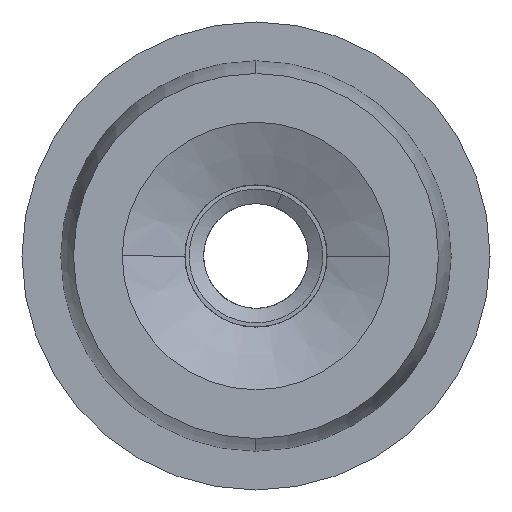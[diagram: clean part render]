
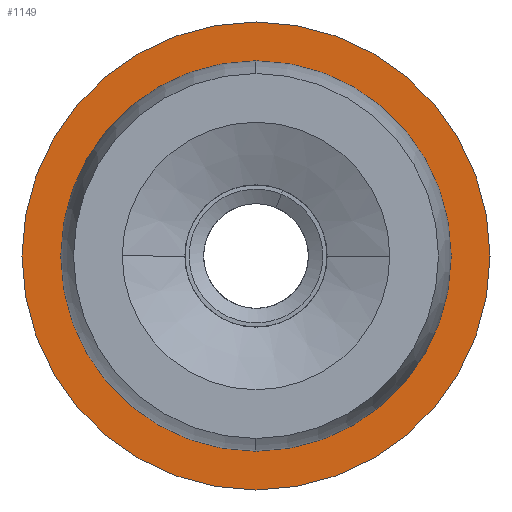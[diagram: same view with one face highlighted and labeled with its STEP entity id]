
A CAD part, left-side view. The second image highlights one B-rep face of the part: STEP entity #1149.
In plain terms, the highlighted planar face has unit normal (-1, 0, 0).
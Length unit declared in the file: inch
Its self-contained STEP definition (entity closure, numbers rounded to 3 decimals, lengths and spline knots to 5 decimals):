
#203 = FACE_BOUND ( 'NONE', #1365, .T. ) ;
#321 = DIRECTION ( 'NONE',  ( -1., 0., 0. ) ) ;
#364 = DIRECTION ( 'NONE',  ( 0., 0., 1. ) ) ;
#584 = CARTESIAN_POINT ( 'NONE',  ( -0.75, 0., 0. ) ) ;
#686 = VERTEX_POINT ( 'NONE', #2312 ) ;
#811 = AXIS2_PLACEMENT_3D ( 'NONE', #1811, #1805, #1777 ) ;
#1149 = ADVANCED_FACE ( 'NONE', ( #203, #2361 ), #1905, .T. ) ;
#1365 = EDGE_LOOP ( 'NONE', ( #2383, #2430 ) ) ;
#1770 = ORIENTED_EDGE ( 'NONE', *, *, #3002, .T. ) ;
#1777 = DIRECTION ( 'NONE',  ( 0., 0., 1. ) ) ;
#1805 = DIRECTION ( 'NONE',  ( -1., 0., 0. ) ) ;
#1811 = CARTESIAN_POINT ( 'NONE',  ( -0.75, 0., -0.365 ) ) ;
#1847 = DIRECTION ( 'NONE',  ( 0., 0., 1. ) ) ;
#1905 = PLANE ( 'NONE',  #811 ) ;
#1917 = CIRCLE ( 'NONE', #4345, 0.4375 ) ;
#1971 = CIRCLE ( 'NONE', #4378, 0.365 ) ;
#2073 = DIRECTION ( 'NONE',  ( 0., 0., 1. ) ) ;
#2107 = CIRCLE ( 'NONE', #4156, 0.365 ) ;
#2117 = ORIENTED_EDGE ( 'NONE', *, *, #2336, .T. ) ;
#2120 = CIRCLE ( 'NONE', #4532, 0.4375 ) ;
#2235 = VERTEX_POINT ( 'NONE', #3403 ) ;
#2312 = CARTESIAN_POINT ( 'NONE',  ( -0.75, 0., 0.365 ) ) ;
#2336 = EDGE_CURVE ( 'NONE', #4368, #4481, #2120, .T. ) ;
#2361 = FACE_OUTER_BOUND ( 'NONE', #2477, .T. ) ;
#2383 = ORIENTED_EDGE ( 'NONE', *, *, #3067, .F. ) ;
#2430 = ORIENTED_EDGE ( 'NONE', *, *, #2988, .F. ) ;
#2477 = EDGE_LOOP ( 'NONE', ( #2117, #1770 ) ) ;
#2503 = DIRECTION ( 'NONE',  ( -1., 0., 0. ) ) ;
#2881 = CARTESIAN_POINT ( 'NONE',  ( -0.75, 0., 0. ) ) ;
#2988 = EDGE_CURVE ( 'NONE', #2235, #686, #1971, .T. ) ;
#3002 = EDGE_CURVE ( 'NONE', #4481, #4368, #1917, .T. ) ;
#3067 = EDGE_CURVE ( 'NONE', #686, #2235, #2107, .T. ) ;
#3403 = CARTESIAN_POINT ( 'NONE',  ( -0.75, 0., -0.365 ) ) ;
#3466 = DIRECTION ( 'NONE',  ( -1., 0., 0. ) ) ;
#3899 = DIRECTION ( 'NONE',  ( 0., 0., 1. ) ) ;
#4109 = CARTESIAN_POINT ( 'NONE',  ( -0.75, 0., 0. ) ) ;
#4156 = AXIS2_PLACEMENT_3D ( 'NONE', #4596, #2503, #364 ) ;
#4206 = CARTESIAN_POINT ( 'NONE',  ( -0.75, 0., 0.4375 ) ) ;
#4345 = AXIS2_PLACEMENT_3D ( 'NONE', #584, #4587, #2073 ) ;
#4368 = VERTEX_POINT ( 'NONE', #4206 ) ;
#4378 = AXIS2_PLACEMENT_3D ( 'NONE', #4109, #3466, #1847 ) ;
#4481 = VERTEX_POINT ( 'NONE', #4620 ) ;
#4532 = AXIS2_PLACEMENT_3D ( 'NONE', #2881, #321, #3899 ) ;
#4587 = DIRECTION ( 'NONE',  ( -1., 0., 0. ) ) ;
#4596 = CARTESIAN_POINT ( 'NONE',  ( -0.75, 0., 0. ) ) ;
#4620 = CARTESIAN_POINT ( 'NONE',  ( -0.75, 0., -0.4375 ) ) ;
